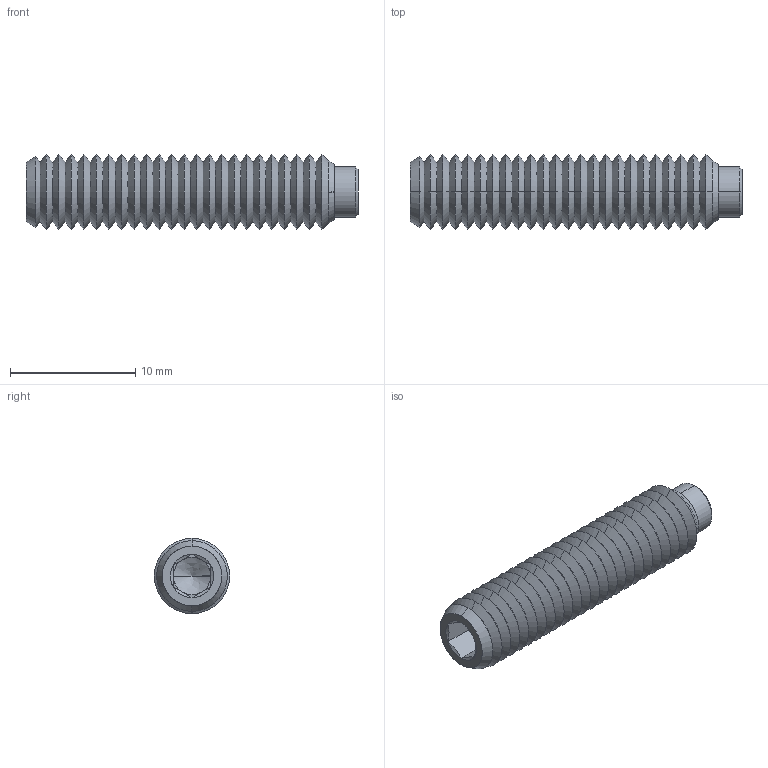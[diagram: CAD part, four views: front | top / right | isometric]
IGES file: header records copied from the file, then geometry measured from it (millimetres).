
Start section: SolidWorks IGES file using analytic representation for surfaces
Global section: file name: C:\Users\IanO\Desktop\P0120_v2_230406\P0120_v2_20230506_IGES\P0120.060-026.igs; native system: SolidWorks 2019; preprocessor: SolidWorks 2019; author: IanO; date: 230406.142412; units: millimetre
Bounding box: 26.5 x 6 x 6 mm (x, y, z)
Surface area: 812.1 mm2 (no closed solid volume)
Topology: 0 solids, 0 shells, 129 faces, 762 edges, 760 vertices
Faces by surface type: revolution 112, bspline 17
